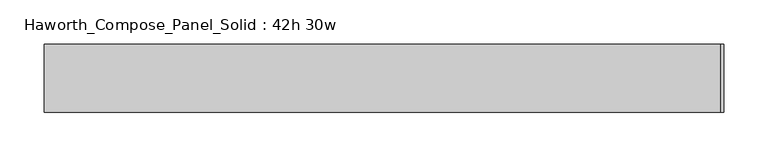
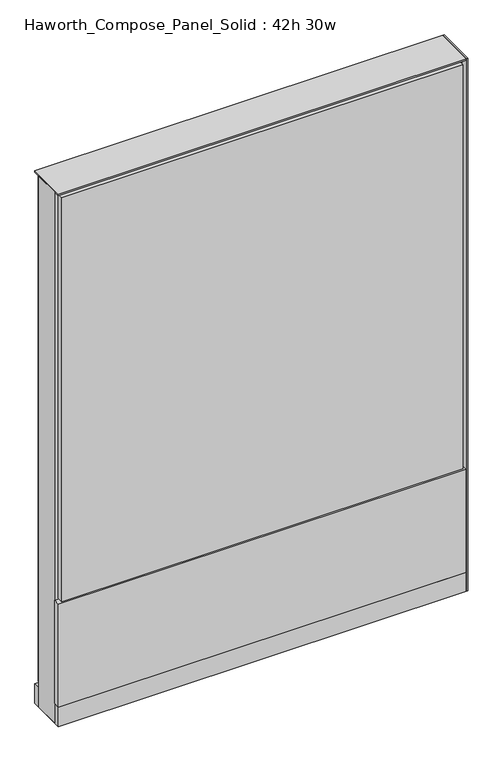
"""IFC4 building model written with IfcOpenShell, lengths in millimetres: furniture geometry, Haworth_Compose_Panel_Solid : 42h 30w."""

from ifc_helpers import new_model, si_unit, point, frame, frame_2d, origin, origin_with_axes, place, context, project, spatial, polyline, circle_curve, trimmed, segment, composite_curve, outline, extrude, source, transform, mapped, element, save


def haworth_compose_panel_solid_42h_30w_a400c964(model_context):
    return source(origin(), model_context, "Body", "SweptSolid", [
        extrude(outline(composite_curve([segment(trimmed(circle_curve(frame_2d((-302.3597098, 0.0)), 12.7), [point((-315.0597098, 0.0))], [point((-289.6597098, 0.0))], False, "CARTESIAN"), True, "CONTINUOUS"), segment(trimmed(circle_curve(frame_2d((-302.3597098, 0.0)), 12.7), [point((-289.6597098, 0.0))], [point((-315.0597098, 0.0))], False, "CARTESIAN"), True, "CONTINUOUS")], self_intersect=False)), origin_with_axes(), (0.0, 0.0, 1.0), 12.7),
        extrude(outline(composite_curve([segment(trimmed(circle_curve(frame_2d((307.2402902, 0.0)), 12.7), [point((294.5402902, 0.0))], [point((319.9402902, 0.0))], False, "CARTESIAN"), True, "CONTINUOUS"), segment(trimmed(circle_curve(frame_2d((307.2402902, 0.0)), 12.7), [point((319.9402902, 0.0))], [point((294.5402902, 0.0))], False, "CARTESIAN"), True, "CONTINUOUS")], self_intersect=False)), origin_with_axes(), (0.0, 0.0, 1.0), 12.7),
        extrude(outline(polyline([(386.6152902, 38.1), (386.6152902, -38.1), (383.4402902, -38.1), (383.4402902, 38.1), (386.6152902, 38.1)])), frame((0.0, 0.0, 12.7), z_axis=(0.0, 0.0, 1.0), x_axis=(1.0, 0.0, 0.0)), (0.0, 0.0, 1.0), 1050.925),
        extrude(outline(polyline([(377.0902902, 38.1), (377.0902902, 25.4), (-372.2097098, 25.4), (-372.2097098, 38.1), (377.0902902, 38.1)])), frame((0.0, 0.0, 53.975), z_axis=(0.0, 0.0, 1.0), x_axis=(1.0, 0.0, 0.0)), (0.0, 0.0, 1.0), 1000.125),
        extrude(outline(polyline([(383.4402902, -38.1), (-378.5597098, -38.1), (-378.5597098, -25.4), (383.4402902, -25.4), (383.4402902, -38.1)])), frame((0.0, 0.0, 50.8), z_axis=(0.0, 0.0, 1.0), x_axis=(1.0, 0.0, 0.0)), (0.0, 0.0, 1.0), 203.2),
        extrude(outline(polyline([(377.0902902, -38.1), (-372.2097098, -38.1), (-372.2097098, -25.4), (377.0902902, -25.4), (377.0902902, -38.1)])), frame((0.0, 0.0, 257.175), z_axis=(0.0, 0.0, 1.0), x_axis=(1.0, 0.0, 0.0)), (0.0, 0.0, 1.0), 796.925),
        extrude(outline(polyline([(383.4402902, 25.4), (383.4402902, -25.4), (-378.5597098, -25.4), (-378.5597098, 25.4), (383.4402902, 25.4)])), frame((0.0, 0.0, 12.7), z_axis=(0.0, 0.0, 1.0), x_axis=(1.0, 0.0, 0.0)), (0.0, 0.0, 1.0), 1047.75),
        extrude(outline(polyline([(-378.5597098, -38.1), (-378.5597098, 38.1), (383.4402902, 38.1), (383.4402902, -38.1), (-378.5597098, -38.1)])), frame((0.0, 0.0, 12.7), z_axis=(0.0, 0.0, 1.0), x_axis=(1.0, 0.0, 0.0)), (0.0, 0.0, 1.0), 38.1),
        extrude(outline(polyline([(-378.5597098, -38.1), (-378.5597098, 38.1), (383.4402902, 38.1), (383.4402902, -38.1), (-378.5597098, -38.1)])), frame((0.0, 0.0, 1060.45), z_axis=(0.0, 0.0, 1.0), x_axis=(1.0, 0.0, 0.0)), (0.0, 0.0, 1.0), 3.175),
    ])


if __name__ == "__main__":
    model = new_model("IFC4")
    model_context = context("Model", 3, world=origin())
    ifc_project = project(units=[si_unit("LENGTHUNIT", "METRE", prefix="MILLI")], contexts=[model_context])
    site = spatial("IfcSite", under=ifc_project)
    building = spatial("IfcBuilding", under=site)
    placement = place(None, origin())
    haworth_compose_panel_solid_42h_30w_shape = haworth_compose_panel_solid_42h_30w_a400c964(model_context)
    element("IfcFurniture", 1, ObjectType="Haworth_Compose_Panel_Solid : 42h 30w", at=placement, inside=building, context=model_context, shape_type="MappedRepresentation", body=[
        mapped(haworth_compose_panel_solid_42h_30w_shape, transform((0.0, 0.0, 0.0), x_axis=(1.0, 0.0, 0.0), y_axis=(0.0, 1.0, 0.0), z_axis=(0.0, 0.0, 1.0))),
    ])
    save(model, "model.ifc")
